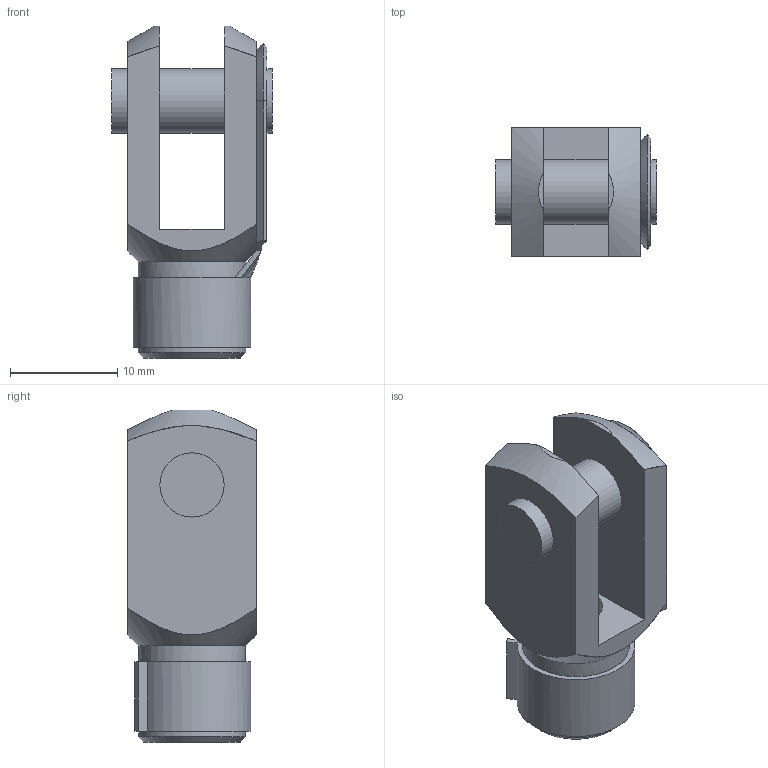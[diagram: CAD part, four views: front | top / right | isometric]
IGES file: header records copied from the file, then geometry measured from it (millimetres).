
Global section: file name: No Iges File Name specified; native system: AutoDesk Inventor R6.0; preprocessor: AutoDesk Inventor Iges Exporter R6.0; author: No Author specified; organization: No Organization specified; date: 20030418.091334; units: millimetre
Bounding box: 15 x 12 x 31 mm (x, y, z)
Surface area: 2164.3 mm2 (no closed solid volume)
Topology: 0 solids, 0 shells, 54 faces, 264 edges, 255 vertices
Faces by surface type: plane 35, revolution 14, bspline 5
